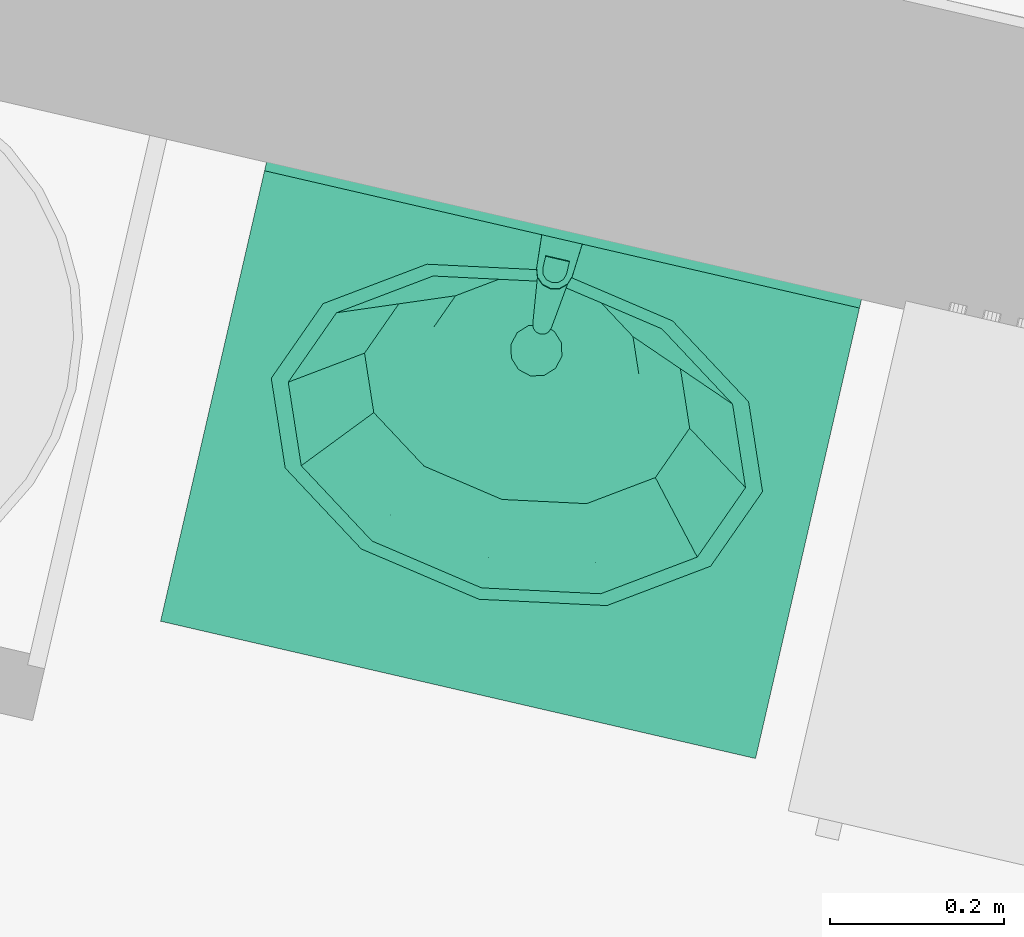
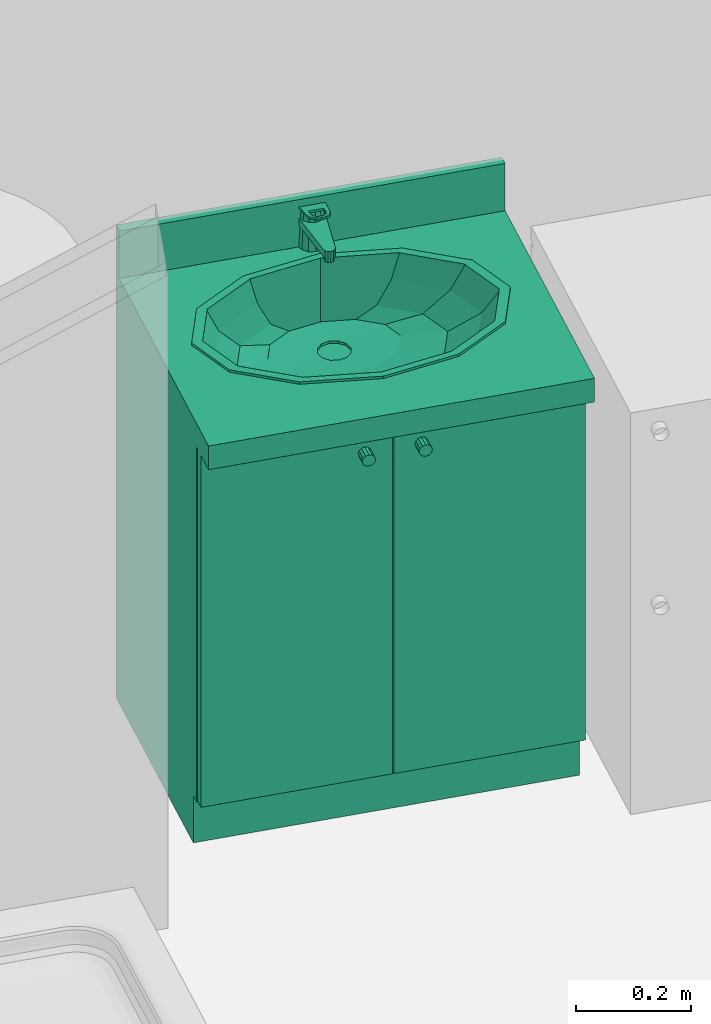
# One storey, part 108 of 119: 1 flow terminal.
"""IFC2X3 building model written with IfcOpenShell, lengths in metres."""

from ifc_helpers import new_model, entity, si_unit, converted_unit, derived_unit, money_unit, direction, frame, origin_with_axes, place, context, subcontext, project, spatial, open_shell, faceted_brep, surface_model, source, transform, mapped, type_object, element, save


model = new_model("IFC2X3")

# Units and contexts
model_context = context("Model", 3, precision=1e-05, world=origin_with_axes(), true_north=direction((0.0, 1.0)))
body_context = subcontext(model_context, "Body", "Model", "MODEL_VIEW")
ifc_project = project(units=[si_unit("LENGTHUNIT", "METRE"), si_unit("AREAUNIT", "SQUARE_METRE"), si_unit("VOLUMEUNIT", "CUBIC_METRE"), converted_unit("PLANEANGLEUNIT", "DEGREE", entity("IfcPlaneAngleMeasure", 0.0174532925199), si_unit("PLANEANGLEUNIT", "RADIAN"), dimensions=[0, 0, 0, 0, 0, 0, 0]), si_unit("SOLIDANGLEUNIT", "STERADIAN"), money_unit("EUR"), converted_unit("TIMEUNIT", "Year", entity("IfcTimeMeasure", 31556926.0), si_unit("TIMEUNIT", "SECOND"), dimensions=[0, 0, 1, 0, 0, 0, 0]), si_unit("MASSUNIT", "GRAM", prefix="KILO"), si_unit("THERMODYNAMICTEMPERATUREUNIT", "DEGREE_CELSIUS"), si_unit("LUMINOUSINTENSITYUNIT", "LUMEN"), si_unit("ENERGYUNIT", "JOULE", prefix="MEGA"), derived_unit("THERMALCONDUCTANCEUNIT", [(si_unit("POWERUNIT", "WATT"), 1), (si_unit("LENGTHUNIT", "METRE"), -1), (si_unit("THERMODYNAMICTEMPERATUREUNIT", "KELVIN"), -1)]), derived_unit("SPECIFICHEATCAPACITYUNIT", [(si_unit("ENERGYUNIT", "JOULE"), 1), (si_unit("MASSUNIT", "GRAM", prefix="KILO"), -1), (si_unit("THERMODYNAMICTEMPERATUREUNIT", "KELVIN"), -1)]), derived_unit("MASSDENSITYUNIT", [(si_unit("MASSUNIT", "GRAM", prefix="KILO"), 1), (si_unit("VOLUMEUNIT", "CUBIC_METRE"), -1)])], contexts=[model_context])

# Site, building, storey
site_placement = place(None, origin_with_axes())
site = spatial("IfcSite", under=ifc_project, at=site_placement, Name="Site", CompositionType="ELEMENT")
building_placement = place(site_placement, origin_with_axes())
building = spatial("IfcBuilding", under=site, at=building_placement, Name="Bâtiment", CompositionType="ELEMENT")
storey_placement = place(building_placement, origin_with_axes())
storey = spatial("IfcBuildingStorey", under=building, at=storey_placement, Name="Rez-de-chaussée", CompositionType="ELEMENT", Elevation=0.0)

# Flow terminal
sanitary_terminal_type = type_object("IfcSanitaryTerminalType", Name="Lavabo sur meuble 23", PredefinedType="NOTDEFINED")
shared_shape = source(origin_with_axes(), body_context, "Body", "SurfaceModel", [
    faceted_brep([(0.0, 0.09, 0.0), (0.7, 0.09, 0.0), (0.7, 0.09, 0.1), (0.0, 0.09, 0.1), (0.0, 0.55, 0.0), (0.7, 0.55, 0.0), (0.7, 0.55, 0.1), (0.0, 0.55, 0.1)], [[[0, 1, 2, 3]], [[0, 4, 5, 1]], [[1, 5, 6, 2]], [[3, 2, 6, 7]], [[4, 0, 3, 7]], [[5, 4, 7, 6]]]),
    faceted_brep([(0.0, 0.07, 0.1), (0.02, 0.07, 0.1), (0.02, 0.07, 0.12), (0.0, 0.07, 0.12), (0.0, 0.55, 0.1), (0.02, 0.55, 0.1), (0.68, 0.55, 0.1), (0.7, 0.55, 0.1), (0.7, 0.07, 0.1), (0.68, 0.07, 0.1), (0.68, 0.07, 0.12), (0.7, 0.07, 0.12), (0.7, 0.55, 0.12), (0.68, 0.55, 0.12), (0.02, 0.55, 0.12), (0.0, 0.55, 0.12)], [[[0, 1, 2, 3]], [[0, 4, 5, 6, 7, 8, 9, 1]], [[1, 9, 10, 2]], [[3, 2, 10, 11, 12, 13, 14, 15]], [[4, 0, 3, 15]], [[5, 4, 15, 14]], [[6, 5, 14, 13]], [[7, 6, 13, 12]], [[8, 7, 12, 11]], [[9, 8, 11, 10]]]),
    faceted_brep([(0.0, 0.07, 0.12), (0.02, 0.07, 0.12), (0.02, 0.07, 0.85), (0.0, 0.07, 0.85), (0.0, 0.55, 0.12), (0.7, 0.55, 0.12), (0.7, 0.07, 0.12), (0.68, 0.07, 0.12), (0.68, 0.53, 0.12), (0.02, 0.53, 0.12), (0.02, 0.53, 0.85), (0.68, 0.53, 0.85), (0.68, 0.07, 0.85), (0.7, 0.07, 0.85), (0.7, 0.55, 0.85), (0.0, 0.55, 0.85)], [[[0, 1, 2, 3]], [[0, 4, 5, 6, 7, 8, 9, 1]], [[1, 9, 10, 2]], [[3, 2, 10, 11, 12, 13, 14, 15]], [[4, 0, 3, 15]], [[5, 4, 15, 14]], [[6, 5, 14, 13]], [[7, 6, 13, 12]], [[8, 7, 12, 11]], [[9, 8, 11, 10]]]),
    faceted_brep([(0.68, 0.07, 0.323333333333), (0.68, 0.53, 0.323333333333), (0.68, 0.53, 0.343333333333), (0.68, 0.07, 0.343333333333), (0.02, 0.07, 0.323333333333), (0.02, 0.53, 0.323333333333), (0.02, 0.53, 0.343333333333), (0.02, 0.07, 0.343333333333)], [[[0, 1, 2, 3]], [[0, 4, 5, 1]], [[1, 5, 6, 2]], [[3, 2, 6, 7]], [[4, 0, 3, 7]], [[5, 4, 7, 6]]]),
    faceted_brep([(0.68, 0.07, 0.566666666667), (0.68, 0.53, 0.566666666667), (0.68, 0.53, 0.586666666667), (0.68, 0.07, 0.586666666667), (0.02, 0.07, 0.566666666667), (0.02, 0.53, 0.566666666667), (0.02, 0.53, 0.586666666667), (0.02, 0.07, 0.586666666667)], [[[0, 1, 2, 3]], [[0, 4, 5, 1]], [[1, 5, 6, 2]], [[3, 2, 6, 7]], [[4, 0, 3, 7]], [[5, 4, 7, 6]]]),
    faceted_brep([(0.0, 0.55, 0.85), (0.7, 0.55, 0.85), (0.7, 0.0, 0.85), (0.0, 0.0, 0.85), (0.485, 0.144115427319, 0.85), (0.583826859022, 0.21, 0.85), (0.62, 0.3, 0.85), (0.583826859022, 0.39, 0.85), (0.485, 0.455884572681, 0.85), (0.35, 0.48, 0.85), (0.215, 0.455884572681, 0.85), (0.116173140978, 0.39, 0.85), (0.08, 0.3, 0.85), (0.116173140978, 0.21, 0.85), (0.215, 0.144115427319, 0.85), (0.35, 0.12, 0.85), (0.0, 0.55, 0.9), (0.7, 0.55, 0.9), (0.7, 0.0, 0.9), (0.0, 0.0, 0.9), (0.485, 0.144115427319, 0.9), (0.583826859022, 0.21, 0.9), (0.62, 0.3, 0.9), (0.583826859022, 0.39, 0.9), (0.485, 0.455884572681, 0.9), (0.35, 0.48, 0.9), (0.215, 0.455884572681, 0.9), (0.116173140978, 0.39, 0.9), (0.08, 0.3, 0.9), (0.116173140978, 0.21, 0.9), (0.215, 0.144115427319, 0.9), (0.35, 0.12, 0.9)], [[[0, 1, 2, 3], [4, 5, 6, 7, 8, 9, 10, 11, 12, 13, 14, 15]], [[0, 16, 17, 1]], [[1, 17, 18, 2]], [[2, 18, 19, 3]], [[3, 19, 16, 0]], [[20, 21, 5, 4]], [[21, 22, 6, 5]], [[22, 23, 7, 6]], [[23, 24, 8, 7]], [[24, 25, 9, 8]], [[25, 26, 10, 9]], [[26, 27, 11, 10]], [[27, 28, 12, 11]], [[28, 29, 13, 12]], [[29, 30, 14, 13]], [[30, 31, 15, 14]], [[31, 20, 4, 15]], [[18, 17, 16, 19], [24, 23, 22, 21, 20, 31, 30, 29, 28, 27, 26, 25]]]),
    faceted_brep([(0.0, 0.53, 0.9), (0.7, 0.53, 0.9), (0.7, 0.53, 1.0), (0.0, 0.53, 1.0), (0.0, 0.55, 0.9), (0.7, 0.55, 0.9), (0.7, 0.55, 1.0), (0.0, 0.55, 1.0)], [[[0, 1, 2, 3]], [[0, 4, 5, 1]], [[1, 5, 6, 2]], [[3, 2, 6, 7]], [[4, 0, 3, 7]], [[5, 4, 7, 6]]]),
    faceted_brep([(0.639, 0.3, 0.905), (0.639, 0.3, 0.9), (0.600281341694, 0.396691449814, 0.9), (0.600281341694, 0.396691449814, 0.905), (0.600281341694, 0.203308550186, 0.905), (0.600281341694, 0.203308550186, 0.9), (0.4945, 0.132525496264, 0.9), (0.35, 0.106617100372, 0.9), (0.2055, 0.132525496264, 0.9), (0.0997186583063, 0.203308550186, 0.9), (0.061, 0.3, 0.9), (0.0997186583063, 0.396691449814, 0.9), (0.2055, 0.467474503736, 0.9), (0.35, 0.493382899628, 0.9), (0.4945, 0.467474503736, 0.9), (0.619, 0.3, 0.9), (0.582960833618, 0.39, 0.9), (0.4845, 0.455884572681, 0.9), (0.35, 0.48, 0.9), (0.2155, 0.455884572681, 0.9), (0.117039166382, 0.39, 0.9), (0.081, 0.3, 0.9), (0.117039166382, 0.21, 0.9), (0.2155, 0.144115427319, 0.9), (0.35, 0.12, 0.9), (0.4845, 0.144115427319, 0.9), (0.582960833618, 0.21, 0.9), (0.4945, 0.467474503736, 0.905), (0.35, 0.493382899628, 0.905), (0.2055, 0.467474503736, 0.905), (0.0997186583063, 0.396691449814, 0.905), (0.061, 0.3, 0.905), (0.0997186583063, 0.203308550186, 0.905), (0.2055, 0.132525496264, 0.905), (0.35, 0.106617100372, 0.905), (0.4945, 0.132525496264, 0.905), (0.619, 0.3, 0.905), (0.582960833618, 0.21, 0.905), (0.4845, 0.144115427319, 0.905), (0.35, 0.12, 0.905), (0.2155, 0.144115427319, 0.905), (0.117039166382, 0.21, 0.905), (0.081, 0.3, 0.905), (0.117039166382, 0.39, 0.905), (0.2155, 0.455884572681, 0.905), (0.35, 0.48, 0.905), (0.4845, 0.455884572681, 0.905), (0.582960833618, 0.39, 0.905)], [[[0, 1, 2, 3]], [[4, 5, 1, 0]], [[1, 5, 6, 7, 8, 9, 10, 11, 12, 13, 14, 2], [15, 16, 17, 18, 19, 20, 21, 22, 23, 24, 25, 26]], [[3, 2, 14, 27]], [[0, 3, 27, 28, 29, 30, 31, 32, 33, 34, 35, 4], [36, 37, 38, 39, 40, 41, 42, 43, 44, 45, 46, 47]], [[35, 6, 5, 4]], [[34, 7, 6, 35]], [[33, 8, 7, 34]], [[32, 9, 8, 33]], [[31, 10, 9, 32]], [[30, 11, 10, 31]], [[29, 12, 11, 30]], [[28, 13, 12, 29]], [[27, 14, 13, 28]], [[47, 16, 15, 36]], [[46, 17, 16, 47]], [[45, 18, 17, 46]], [[44, 19, 18, 45]], [[43, 20, 19, 44]], [[42, 21, 20, 43]], [[41, 22, 21, 42]], [[40, 23, 22, 41]], [[39, 24, 23, 40]], [[38, 25, 24, 39]], [[37, 26, 25, 38]], [[36, 15, 26, 37]]]),
    surface_model("IfcShellBasedSurfaceModel", [(0.35, 0.48, 0.9), (0.35, 0.48, 0.848), (0.47105, 0.458296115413, 0.848), (0.4845, 0.455884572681, 0.9), (0.2155, 0.455884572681, 0.9), (0.22895, 0.458296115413, 0.848), (0.559664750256, 0.399, 0.848), (0.582960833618, 0.39, 0.9), (0.117039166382, 0.39, 0.9), (0.140335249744, 0.399, 0.848), (0.5921, 0.318, 0.848), (0.619, 0.3, 0.9), (0.081, 0.3, 0.9), (0.1079, 0.318, 0.848), (0.559664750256, 0.237, 0.848), (0.582960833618, 0.21, 0.9), (0.117039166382, 0.21, 0.9), (0.140335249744, 0.237, 0.848), (0.47105, 0.177703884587, 0.848), (0.4845, 0.144115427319, 0.9), (0.2155, 0.144115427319, 0.9), (0.22895, 0.177703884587, 0.848), (0.35, 0.156, 0.848), (0.35, 0.12, 0.9)], [open_shell([[[0, 1, 2, 3]], [[4, 5, 1, 0]], [[3, 2, 6, 7]], [[8, 9, 5, 4]], [[7, 6, 10, 11]], [[12, 13, 9, 8]], [[11, 10, 14, 15]], [[16, 17, 13, 12]], [[15, 14, 18, 19]], [[20, 21, 17, 16]], [[19, 18, 22, 23]], [[23, 22, 21, 20]]])]),
    surface_model("IfcShellBasedSurfaceModel", [(0.35, 0.48, 0.848), (0.35, 0.48, 0.796), (0.4456295, 0.462853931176, 0.796), (0.47105, 0.458296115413, 0.848), (0.22895, 0.458296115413, 0.848), (0.2543705, 0.462853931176, 0.796), (0.515635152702, 0.41601, 0.796), (0.559664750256, 0.399, 0.848), (0.140335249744, 0.399, 0.848), (0.184364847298, 0.41601, 0.796), (0.541259, 0.35202, 0.796), (0.5921, 0.318, 0.848), (0.1079, 0.318, 0.848), (0.158741, 0.35202, 0.796), (0.515635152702, 0.28803, 0.796), (0.559664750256, 0.237, 0.848), (0.140335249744, 0.237, 0.848), (0.184364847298, 0.28803, 0.796), (0.4456295, 0.241186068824, 0.796), (0.47105, 0.177703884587, 0.848), (0.22895, 0.177703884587, 0.848), (0.2543705, 0.241186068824, 0.796), (0.35, 0.22404, 0.796), (0.35, 0.156, 0.848)], [open_shell([[[0, 1, 2, 3]], [[4, 5, 1, 0]], [[3, 2, 6, 7]], [[8, 9, 5, 4]], [[7, 6, 10, 11]], [[12, 13, 9, 8]], [[11, 10, 14, 15]], [[16, 17, 13, 12]], [[15, 14, 18, 19]], [[20, 21, 17, 16]], [[19, 18, 22, 23]], [[23, 22, 21, 20]]])]),
    surface_model("IfcShellBasedSurfaceModel", [(0.35, 0.48, 0.796), (0.35, 0.48, 0.77), (0.410246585, 0.469197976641, 0.77), (0.4456295, 0.462853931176, 0.796), (0.2543705, 0.462853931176, 0.796), (0.289753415, 0.469197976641, 0.77), (0.454350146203, 0.4396863, 0.77), (0.515635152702, 0.41601, 0.796), (0.184364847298, 0.41601, 0.796), (0.245649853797, 0.4396863, 0.77), (0.47049317, 0.3993726, 0.77), (0.541259, 0.35202, 0.796), (0.158741, 0.35202, 0.796), (0.22950683, 0.3993726, 0.77), (0.454350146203, 0.3590589, 0.77), (0.515635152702, 0.28803, 0.796), (0.184364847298, 0.28803, 0.796), (0.245649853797, 0.3590589, 0.77), (0.410246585, 0.329547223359, 0.77), (0.4456295, 0.241186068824, 0.796), (0.2543705, 0.241186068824, 0.796), (0.289753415, 0.329547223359, 0.77), (0.35, 0.3187452, 0.77), (0.35, 0.22404, 0.796)], [open_shell([[[0, 1, 2, 3]], [[4, 5, 1, 0]], [[3, 2, 6, 7]], [[8, 9, 5, 4]], [[7, 6, 10, 11]], [[12, 13, 9, 8]], [[11, 10, 14, 15]], [[16, 17, 13, 12]], [[15, 14, 18, 19]], [[20, 21, 17, 16]], [[19, 18, 22, 23]], [[23, 22, 21, 20]]])]),
    surface_model("IfcShellBasedSurfaceModel", [(0.35, 0.48, 0.77), (0.365, 0.425353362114, 0.763), (0.410246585, 0.469197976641, 0.77), (0.35, 0.4293726, 0.763), (0.375980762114, 0.4143726, 0.763), (0.289753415, 0.469197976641, 0.77), (0.454350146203, 0.4396863, 0.77), (0.335, 0.425353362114, 0.763), (0.38, 0.3993726, 0.763), (0.245649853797, 0.4396863, 0.77), (0.47049317, 0.3993726, 0.77), (0.324019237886, 0.4143726, 0.763), (0.375980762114, 0.3843726, 0.763), (0.22950683, 0.3993726, 0.77), (0.454350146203, 0.3590589, 0.77), (0.32, 0.3993726, 0.763), (0.365, 0.373391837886, 0.763), (0.245649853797, 0.3590589, 0.77), (0.410246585, 0.329547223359, 0.77), (0.324019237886, 0.3843726, 0.763), (0.35, 0.3693726, 0.763), (0.289753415, 0.329547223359, 0.77), (0.35, 0.3187452, 0.77), (0.335, 0.373391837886, 0.763)], [open_shell([[[0, 1, 2]], [[0, 3, 1]], [[2, 1, 4]], [[5, 3, 0]], [[2, 4, 6]], [[5, 7, 3]], [[6, 4, 8]], [[9, 7, 5]], [[6, 8, 10]], [[9, 11, 7]], [[10, 8, 12]], [[13, 11, 9]], [[10, 12, 14]], [[13, 15, 11]], [[14, 12, 16]], [[17, 15, 13]], [[14, 16, 18]], [[17, 19, 15]], [[18, 16, 20]], [[21, 19, 17]], [[18, 20, 22]], [[21, 23, 19]], [[22, 20, 23]], [[22, 23, 21]]])]),
    surface_model("IfcShellBasedSurfaceModel", [(0.38, 0.3993726, 0.763), (0.38, 0.3993726, 0.758), (0.375980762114, 0.4143726, 0.758), (0.375980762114, 0.4143726, 0.763), (0.375980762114, 0.3843726, 0.763), (0.375980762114, 0.3843726, 0.758), (0.365, 0.373391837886, 0.758), (0.35, 0.3693726, 0.758), (0.335, 0.373391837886, 0.758), (0.324019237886, 0.3843726, 0.758), (0.32, 0.3993726, 0.758), (0.324019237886, 0.4143726, 0.758), (0.335, 0.425353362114, 0.758), (0.35, 0.4293726, 0.758), (0.365, 0.425353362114, 0.758), (0.365, 0.425353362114, 0.763), (0.365, 0.373391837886, 0.763), (0.35, 0.3693726, 0.763), (0.335, 0.373391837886, 0.763), (0.324019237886, 0.3843726, 0.763), (0.32, 0.3993726, 0.763), (0.324019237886, 0.4143726, 0.763), (0.335, 0.425353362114, 0.763), (0.35, 0.4293726, 0.763)], [open_shell([[[0, 1, 2, 3]], [[4, 5, 1, 0]], [[1, 5, 6, 7, 8, 9, 10, 11, 12, 13, 14, 2]], [[3, 2, 14, 15]], [[16, 6, 5, 4]], [[17, 7, 6, 16]], [[18, 8, 7, 17]], [[19, 9, 8, 18]], [[20, 10, 9, 19]], [[21, 11, 10, 20]], [[22, 12, 11, 21]], [[23, 13, 12, 22]], [[15, 14, 13, 23]]])]),
    faceted_brep([(0.3625, 0.554150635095, 0.9), (0.35, 0.5575, 0.9), (0.35, 0.553701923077, 0.975961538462), (0.360587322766, 0.550837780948, 0.976507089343), (0.371650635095, 0.545, 0.9), (0.375, 0.5325, 0.9), (0.371650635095, 0.52, 0.9), (0.3625, 0.510849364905, 0.9), (0.35, 0.5075, 0.9), (0.3375, 0.510849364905, 0.9), (0.328349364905, 0.52, 0.9), (0.325, 0.5325, 0.9), (0.328349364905, 0.545, 0.9), (0.3375, 0.554150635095, 0.9), (0.339412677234, 0.550837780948, 0.976507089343), (0.331726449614, 0.543050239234, 0.977990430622), (0.329, 0.5325, 0.98), (0.331899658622, 0.522049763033, 0.981990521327), (0.339585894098, 0.514462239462, 0.983435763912), (0.35, 0.511698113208, 0.983962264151), (0.360414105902, 0.514462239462, 0.983435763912), (0.368100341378, 0.522049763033, 0.981990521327), (0.371, 0.5325, 0.98), (0.368273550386, 0.543050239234, 0.977990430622)], [[[0, 1, 2, 3]], [[0, 4, 5, 6, 7, 8, 9, 10, 11, 12, 13, 1]], [[1, 13, 14, 2]], [[3, 2, 14, 15, 16, 17, 18, 19, 20, 21, 22, 23]], [[4, 0, 3, 23]], [[5, 4, 23, 22]], [[6, 5, 22, 21]], [[7, 6, 21, 20]], [[8, 7, 20, 19]], [[9, 8, 19, 18]], [[10, 9, 18, 17]], [[11, 10, 17, 16]], [[12, 11, 16, 15]], [[13, 12, 15, 14]]]),
    faceted_brep([(0.359, 0.4295, 0.935), (0.357794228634, 0.434, 0.935), (0.357794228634, 0.434, 0.945), (0.359, 0.4295, 0.945), (0.357794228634, 0.425, 0.935), (0.3545, 0.421705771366, 0.935), (0.35, 0.4205, 0.935), (0.3455, 0.421705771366, 0.935), (0.342205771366, 0.425, 0.935), (0.341, 0.4295, 0.935), (0.342205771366, 0.434, 0.935), (0.3455, 0.437294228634, 0.935), (0.35, 0.4385, 0.935), (0.3545, 0.437294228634, 0.935), (0.3545, 0.437294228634, 0.945), (0.35, 0.4385, 0.945), (0.3455, 0.437294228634, 0.945), (0.342205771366, 0.434, 0.945), (0.341, 0.4295, 0.945), (0.342205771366, 0.425, 0.945), (0.3455, 0.421705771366, 0.945), (0.35, 0.4205, 0.945), (0.3545, 0.421705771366, 0.945), (0.357794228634, 0.425, 0.945)], [[[0, 1, 2, 3]], [[0, 4, 5, 6, 7, 8, 9, 10, 11, 12, 13, 1]], [[1, 13, 14, 2]], [[3, 2, 14, 15, 16, 17, 18, 19, 20, 21, 22, 23]], [[4, 0, 3, 23]], [[5, 4, 23, 22]], [[6, 5, 22, 21]], [[7, 6, 21, 20]], [[8, 7, 20, 19]], [[9, 8, 19, 18]], [[10, 9, 18, 17]], [[11, 10, 17, 16]], [[12, 11, 16, 15]], [[13, 12, 15, 14]]]),
    faceted_brep([(0.337128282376, 0.552756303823, 0.96), (0.328272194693, 0.54269320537, 0.96), (0.3261946, 0.5294501, 0.96), (0.339088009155, 0.428111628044, 0.96), (0.340971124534, 0.423216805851, 0.96), (0.344906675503, 0.419750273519, 0.96), (0.350000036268, 0.41850003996, 0.96), (0.355093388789, 0.419750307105, 0.96), (0.359028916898, 0.423216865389, 0.96), (0.360912, 0.4281117, 0.96), (0.373805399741, 0.529450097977, 0.96), (0.371727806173, 0.542693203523, 0.96), (0.362871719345, 0.552756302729, 0.96), (0.35000000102, 0.556499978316, 0.96), (0.361, 0.551552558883, 0.96), (0.369052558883, 0.5435, 0.96), (0.372, 0.5325, 0.96), (0.369052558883, 0.5215, 0.96), (0.361, 0.513447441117, 0.96), (0.35, 0.5105, 0.96), (0.339, 0.513447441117, 0.96), (0.330947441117, 0.5215, 0.96), (0.328, 0.5325, 0.96), (0.330947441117, 0.5435, 0.96), (0.339, 0.551552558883, 0.96), (0.35, 0.5545, 0.96), (0.328272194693, 0.54269320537, 0.945), (0.337128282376, 0.552756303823, 0.945), (0.3261946, 0.5294501, 0.945), (0.339088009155, 0.428111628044, 0.945), (0.340971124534, 0.423216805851, 0.945), (0.344906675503, 0.419750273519, 0.945), (0.350000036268, 0.41850003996, 0.945), (0.355093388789, 0.419750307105, 0.945), (0.359028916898, 0.423216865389, 0.945), (0.360912, 0.4281117, 0.945), (0.373805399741, 0.529450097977, 0.945), (0.371727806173, 0.542693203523, 0.945), (0.362871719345, 0.552756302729, 0.945), (0.35000000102, 0.556499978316, 0.945), (0.361375, 0.552202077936, 0.945), (0.369702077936, 0.543875, 0.945), (0.37275, 0.5325, 0.945), (0.369702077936, 0.521125, 0.945), (0.361375, 0.512797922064, 0.945), (0.35, 0.50975, 0.945), (0.338625, 0.512797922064, 0.945), (0.330297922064, 0.521125, 0.945), (0.32725, 0.5325, 0.945), (0.330297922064, 0.543875, 0.945), (0.338625, 0.552202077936, 0.945), (0.35, 0.55525, 0.945)], [[[0, 1, 2, 3, 4, 5, 6, 7, 8, 9, 10, 11, 12, 13], [14, 15, 16, 17, 18, 19, 20, 21, 22, 23, 24, 25]], [[26, 1, 0, 27]], [[28, 2, 1, 26]], [[29, 3, 2, 28]], [[30, 4, 3, 29]], [[31, 5, 4, 30]], [[32, 6, 5, 31]], [[33, 7, 6, 32]], [[34, 8, 7, 33]], [[35, 9, 8, 34]], [[36, 10, 9, 35]], [[37, 11, 10, 36]], [[38, 12, 11, 37]], [[39, 13, 12, 38]], [[27, 0, 13, 39]], [[40, 41, 15, 14]], [[41, 42, 16, 15]], [[42, 43, 17, 16]], [[43, 44, 18, 17]], [[44, 45, 19, 18]], [[20, 19, 45, 46]], [[21, 20, 46, 47]], [[22, 21, 47, 48]], [[23, 22, 48, 49]], [[24, 23, 49, 50]], [[50, 51, 25, 24]], [[51, 40, 14, 25]], [[32, 31, 30, 29, 28, 26, 27, 39, 38, 37, 36, 35, 34, 33], [44, 43, 42, 41, 40, 51, 50, 49, 48, 47, 46, 45]]]),
    faceted_brep([(0.373893, 0.53080743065, 0.980322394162), (0.371296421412, 0.543274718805, 0.977947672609), (0.371296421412, 0.544023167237, 0.981877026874), (0.373893, 0.531555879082, 0.984251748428), (0.370945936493, 0.490663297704, 0.987968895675), (0.367663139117, 0.480985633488, 0.989812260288), (0.360061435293, 0.474036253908, 0.991135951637), (0.349999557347, 0.47151438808, 0.991616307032), (0.339937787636, 0.474036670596, 0.991135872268), (0.332336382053, 0.480986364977, 0.989812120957), (0.329054, 0.490664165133, 0.987968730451), (0.326106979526, 0.530807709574, 0.980322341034), (0.328703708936, 0.543274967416, 0.977947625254), (0.33752831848, 0.552591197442, 0.976173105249), (0.350000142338, 0.556031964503, 0.975517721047), (0.36247192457, 0.552591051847, 0.976173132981), (0.364, 0.506959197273, 0.984864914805), (0.336, 0.506959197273, 0.984864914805), (0.336, 0.492143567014, 0.987686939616), (0.337875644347, 0.485267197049, 0.988996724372), (0.343, 0.480233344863, 0.989955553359), (0.35, 0.478390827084, 0.990306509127), (0.357, 0.480233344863, 0.989955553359), (0.362124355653, 0.485267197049, 0.988996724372), (0.364, 0.492143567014, 0.987686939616), (0.36247192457, 0.553339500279, 0.980102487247), (0.350000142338, 0.556780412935, 0.979447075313), (0.33752831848, 0.553339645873, 0.980102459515), (0.328703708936, 0.544023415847, 0.98187697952), (0.326106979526, 0.531556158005, 0.984251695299), (0.329054, 0.491412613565, 0.991898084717), (0.332336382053, 0.481734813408, 0.993741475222), (0.339937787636, 0.474785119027, 0.995065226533), (0.349999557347, 0.472262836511, 0.995545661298), (0.360061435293, 0.47478470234, 0.995065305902), (0.367663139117, 0.48173408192, 0.993741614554), (0.370945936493, 0.491411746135, 0.991898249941), (0.364, 0.507707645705, 0.988794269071), (0.364, 0.492892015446, 0.991616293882), (0.362124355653, 0.486015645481, 0.992926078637), (0.357, 0.480981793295, 0.993884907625), (0.35, 0.479139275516, 0.994235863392), (0.343, 0.480981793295, 0.993884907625), (0.337875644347, 0.486015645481, 0.992926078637), (0.336, 0.492892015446, 0.991616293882), (0.336, 0.507707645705, 0.988794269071)], [[[0, 1, 2, 3]], [[0, 4, 5, 6, 7, 8, 9, 10, 11, 12, 13, 14, 15, 1], [16, 17, 18, 19, 20, 21, 22, 23, 24]], [[1, 15, 25, 2]], [[3, 2, 25, 26, 27, 28, 29, 30, 31, 32, 33, 34, 35, 36], [37, 38, 39, 40, 41, 42, 43, 44, 45]], [[4, 0, 3, 36]], [[5, 4, 36, 35]], [[6, 5, 35, 34]], [[7, 6, 34, 33]], [[8, 7, 33, 32]], [[9, 8, 32, 31]], [[10, 9, 31, 30]], [[11, 10, 30, 29]], [[12, 11, 29, 28]], [[13, 12, 28, 27]], [[14, 13, 27, 26]], [[15, 14, 26, 25]], [[17, 16, 37, 45]], [[18, 17, 45, 44]], [[19, 18, 44, 43]], [[20, 19, 43, 42]], [[21, 20, 42, 41]], [[22, 21, 41, 40]], [[23, 22, 40, 39]], [[24, 23, 39, 38]], [[16, 24, 38, 37]]]),
    faceted_brep([(0.0015, 0.07, 0.1015), (0.3485, 0.07, 0.1015), (0.3485, 0.05, 0.1015), (0.0015, 0.05, 0.1015), (0.0015, 0.07, 0.8485), (0.3485, 0.07, 0.8485), (0.3485, 0.05, 0.8485), (0.0015, 0.05, 0.8485)], [[[0, 1, 2, 3]], [[0, 4, 5, 1]], [[1, 5, 6, 2]], [[3, 2, 6, 7]], [[4, 0, 3, 7]], [[5, 4, 7, 6]]]),
    faceted_brep([(0.308892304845, 0.05, 0.7855), (0.3045, 0.05, 0.781107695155), (0.2985, 0.05, 0.7795), (0.2925, 0.05, 0.781107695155), (0.288107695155, 0.05, 0.7855), (0.2865, 0.05, 0.7915), (0.288107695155, 0.05, 0.7975), (0.2925, 0.05, 0.801892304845), (0.2985, 0.05, 0.8035), (0.3045, 0.05, 0.801892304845), (0.308892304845, 0.05, 0.7975), (0.3105, 0.05, 0.7915), (0.308892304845, 0.025, 0.7855), (0.3045, 0.025, 0.781107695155), (0.2985, 0.025, 0.7795), (0.2925, 0.025, 0.781107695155), (0.288107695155, 0.025, 0.7855), (0.2865, 0.025, 0.7915), (0.288107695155, 0.025, 0.7975), (0.2925, 0.025, 0.801892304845), (0.2985, 0.025, 0.8035), (0.3045, 0.025, 0.801892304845), (0.308892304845, 0.025, 0.7975), (0.3105, 0.025, 0.7915)], [[[0, 1, 2, 3, 4, 5, 6, 7, 8, 9, 10, 11]], [[1, 0, 12, 13]], [[2, 1, 13, 14]], [[3, 2, 14, 15]], [[4, 3, 15, 16]], [[5, 4, 16, 17]], [[6, 5, 17, 18]], [[7, 6, 18, 19]], [[8, 7, 19, 20]], [[9, 8, 20, 21]], [[10, 9, 21, 22]], [[11, 10, 22, 23]], [[0, 11, 23, 12]], [[12, 23, 22, 21, 20, 19, 18, 17, 16, 15, 14, 13]]]),
    faceted_brep([(0.6985, 0.07, 0.1015), (0.6985, 0.05, 0.1015), (0.3515, 0.05, 0.1015), (0.3515, 0.07, 0.1015), (0.6985, 0.07, 0.8485), (0.6985, 0.05, 0.8485), (0.3515, 0.05, 0.8485), (0.3515, 0.07, 0.8485)], [[[0, 1, 2, 3]], [[4, 5, 1, 0]], [[1, 5, 6, 2]], [[3, 2, 6, 7]], [[0, 3, 7, 4]], [[7, 6, 5, 4]]]),
    faceted_brep([(0.391107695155, 0.05, 0.7855), (0.3895, 0.05, 0.7915), (0.391107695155, 0.05, 0.7975), (0.3955, 0.05, 0.801892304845), (0.4015, 0.05, 0.8035), (0.4075, 0.05, 0.801892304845), (0.411892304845, 0.05, 0.7975), (0.4135, 0.05, 0.7915), (0.411892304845, 0.05, 0.7855), (0.4075, 0.05, 0.781107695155), (0.4015, 0.05, 0.7795), (0.3955, 0.05, 0.781107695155), (0.391107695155, 0.025, 0.7855), (0.3895, 0.025, 0.7915), (0.391107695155, 0.025, 0.7975), (0.3955, 0.025, 0.801892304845), (0.4015, 0.025, 0.8035), (0.4075, 0.025, 0.801892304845), (0.411892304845, 0.025, 0.7975), (0.4135, 0.025, 0.7915), (0.411892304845, 0.025, 0.7855), (0.4075, 0.025, 0.781107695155), (0.4015, 0.025, 0.7795), (0.3955, 0.025, 0.781107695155)], [[[0, 1, 2, 3, 4, 5, 6, 7, 8, 9, 10, 11]], [[0, 12, 13, 1]], [[1, 13, 14, 2]], [[2, 14, 15, 3]], [[3, 15, 16, 4]], [[4, 16, 17, 5]], [[5, 17, 18, 6]], [[6, 18, 19, 7]], [[7, 19, 20, 8]], [[8, 20, 21, 9]], [[9, 21, 22, 10]], [[10, 22, 23, 11]], [[11, 23, 12, 0]], [[12, 23, 22, 21, 20, 19, 18, 17, 16, 15, 14, 13]]]),
])
flow_terminal_placement = place(storey_placement, frame((-9.70725715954, 11.2442175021, 0.0), z_axis=(0.0, 0.0, 1.0), x_axis=(0.974387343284, -0.224876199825, 0.0)))
element("IfcFlowTerminal", 1, at=flow_terminal_placement, inside=storey, type_object=sanitary_terminal_type, Name="MOB-002", ObjectType="SANITARY_TERMINAL", context=body_context, shape_type="MappedRepresentation", body=[
    mapped(shared_shape, transform((0.0, 0.0, 0.0))),
])

save(model, "model.ifc")
